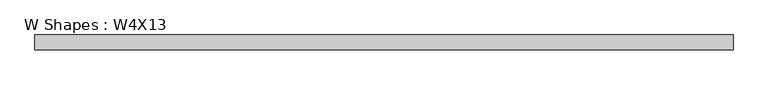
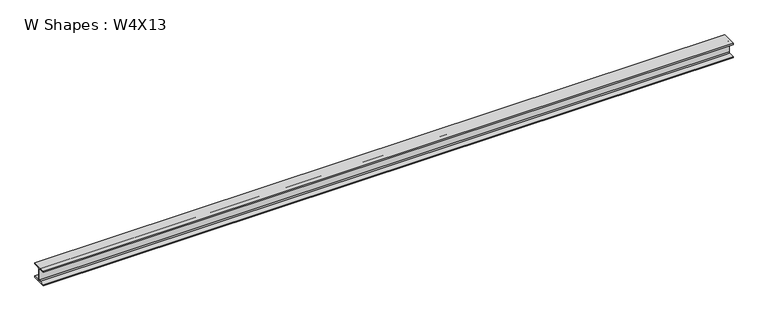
"""IFC4 building model written with IfcOpenShell, lengths in millimetres: beam geometry, W Shapes : W4X13."""

import ifcopenshell
import ifcopenshell.guid

model = None  # the IFC model being written
_history = None  # IfcOwnerHistory: only IFC2X3 demands one
_inside = {}  # id of a spatial element -> (the spatial element, [elements in it])
_under = {}  # id of a project, library or spatial element -> (it, [spatial elements below it])
_declared = {}  # id of a project -> (the project, [libraries it declares])
_typed = {}  # id of a type object -> (the type object, [elements of that type])
_made_of = {}  # id of a material, layer set ... -> (it, [elements and type objects made of it])


def new_model(schema):
    """Start an empty IFC model of exactly this schema.

    Asked for "IFC4X3", IfcOpenShell would pick the latest addendum, in which some entities
    have other attributes; the version numbers below select the first issue.
    IFC2X3 requires an IfcOwnerHistory on every rooted entity: one is made here for all.
    """
    global model, _history
    if schema == "IFC4X3":
        model = ifcopenshell.file(schema_version=(4, 3, 0, 0))
    else:
        model = ifcopenshell.file(schema=schema)
    _inside.clear()
    _under.clear()
    _declared.clear()
    _typed.clear()
    _made_of.clear()
    _history = None
    if model.schema == "IFC2X3":
        org = make("IfcOrganization", Name="unknown")
        user = make(
            "IfcPersonAndOrganization",
            ThePerson=make("IfcPerson", FamilyName="unknown"),
            TheOrganization=org,
        )
        app = make(
            "IfcApplication",
            ApplicationDeveloper=org,
            Version="unknown",
            ApplicationFullName="unknown",
            ApplicationIdentifier="unknown",
        )
        _history = make(
            "IfcOwnerHistory",
            OwningUser=user,
            OwningApplication=app,
            ChangeAction="ADDED",
            CreationDate=0,
        )
    return model


def make(cls, **values):
    """One entity of the class cls with the attributes given. An attribute that is None is left unset."""
    return model.create_entity(
        cls, **{name: value for name, value in values.items() if value is not None}
    )


def rooted(cls, **values):
    """An entity with a GlobalId (a new one), such as an element, a storey or a relation."""
    return make(cls, GlobalId=ifcopenshell.guid.new(), OwnerHistory=_history, **values)


def si_unit(unit_type, name, prefix=None):
    """IfcSIUnit, for example si_unit("LENGTHUNIT", "METRE", prefix="MILLI")."""
    return make("IfcSIUnit", UnitType=unit_type, Prefix=prefix, Name=name)


def assignment(units):
    """IfcUnitAssignment: the units of a project."""
    return None if units is None else make("IfcUnitAssignment", Units=units)


def point(xyz):
    """IfcCartesianPoint."""
    return None if xyz is None else make("IfcCartesianPoint", Coordinates=xyz)


def direction(xyz):
    """IfcDirection."""
    return None if xyz is None else make("IfcDirection", DirectionRatios=xyz)


def frame(location, z_axis=None, x_axis=None):
    """IfcAxis2Placement3D, a coordinate frame: its origin and axes. An axis left out is left unset."""
    return make(
        "IfcAxis2Placement3D",
        Location=point(location),
        Axis=direction(z_axis),
        RefDirection=direction(x_axis),
    )


def frame_2d(location, x_axis=None):
    """IfcAxis2Placement2D, a coordinate frame in the plane: its origin and x axis."""
    return make(
        "IfcAxis2Placement2D", Location=point(location), RefDirection=direction(x_axis)
    )


def origin():
    """The frame at (0, 0, 0) with its axes left unset."""
    return frame((0.0, 0.0, 0.0))


def place(relative_to, where):
    """IfcLocalPlacement: puts the frame where relative to a parent placement (None: the world)."""
    return make(
        "IfcLocalPlacement", PlacementRelTo=relative_to, RelativePlacement=where
    )


def context(
    kind, dimensions, precision=None, world=None, true_north=None, identifier=None
):
    """IfcGeometricRepresentationContext, for example the 3D "Model" context."""
    return make(
        "IfcGeometricRepresentationContext",
        ContextIdentifier=identifier,
        ContextType=kind,
        CoordinateSpaceDimension=dimensions,
        Precision=precision,
        WorldCoordinateSystem=world,
        TrueNorth=true_north,
    )


def project(units=None, contexts=None):
    """IfcProject with its units and contexts."""
    return rooted(
        "IfcProject",
        Name="project",
        RepresentationContexts=contexts,
        UnitsInContext=assignment(units),
    )


def spatial(cls, under=None, at=None, **own):
    """A site, building, storey or space (cls), placed at a placement, below another one or the project."""
    s = rooted(cls, ObjectPlacement=at, **own)
    if under is not None:
        _under.setdefault(under.id(), (under, []))[1].append(s)
    return s


def polyline(points):
    """IfcPolyline through the points."""
    return make("IfcPolyline", Points=[point(p) for p in points])


def circle_curve(where, radius):
    """IfcCircle in the frame where."""
    return make("IfcCircle", Position=where, Radius=radius)


def trimmed(basis, trim1, trim2, sense, master):
    """IfcTrimmedCurve: the piece of a basis curve between two trims."""
    return make(
        "IfcTrimmedCurve",
        BasisCurve=basis,
        Trim1=trim1,
        Trim2=trim2,
        SenseAgreement=sense,
        MasterRepresentation=master,
    )


def segment(curve, same_sense, transition):
    """IfcCompositeCurveSegment."""
    return make(
        "IfcCompositeCurveSegment",
        Transition=transition,
        SameSense=same_sense,
        ParentCurve=curve,
    )


def composite_curve(segments, self_intersect=None):
    """IfcCompositeCurve: segments joined end to end."""
    return make("IfcCompositeCurve", Segments=segments, SelfIntersect=self_intersect)


def outline(outer, holes=None, kind="AREA"):
    """IfcArbitraryClosedProfileDef: a profile drawn as a closed curve; with holes, ...WithVoids."""
    if holes is None:
        return make("IfcArbitraryClosedProfileDef", ProfileType=kind, OuterCurve=outer)
    return make(
        "IfcArbitraryProfileDefWithVoids",
        ProfileType=kind,
        OuterCurve=outer,
        InnerCurves=holes,
    )


def extrude(swept, where, along, depth):
    """IfcExtrudedAreaSolid: the profile swept, set in the frame where, extruded along a direction by depth."""
    return make(
        "IfcExtrudedAreaSolid",
        SweptArea=swept,
        Position=where,
        ExtrudedDirection=direction(along),
        Depth=depth,
    )


def shape(context_of_items, identifier, shape_type, items):
    """IfcShapeRepresentation: the items that make up one representation, for example the "Body"."""
    return make(
        "IfcShapeRepresentation",
        ContextOfItems=context_of_items,
        RepresentationIdentifier=identifier,
        RepresentationType=shape_type,
        Items=items,
    )


def source(mapping_origin, context_of_items, identifier, shape_type, items):
    """IfcRepresentationMap: a shape defined once, which mapped items show again and again."""
    return make(
        "IfcRepresentationMap",
        MappingOrigin=mapping_origin,
        MappedRepresentation=shape(context_of_items, identifier, shape_type, items),
    )


def transform(
    local_origin,
    x_axis=None,
    y_axis=None,
    z_axis=None,
    scale=None,
    scale2=None,
    scale3=None,
    uniform=True,
):
    """IfcCartesianTransformationOperator3D, or its non-uniform kind. x_axis, y_axis, z_axis: its Axis1, 2, 3."""
    if uniform:
        return make(
            "IfcCartesianTransformationOperator3D",
            Axis1=direction(x_axis),
            Axis2=direction(y_axis),
            LocalOrigin=point(local_origin),
            Scale=scale,
            Axis3=direction(z_axis),
        )
    return make(
        "IfcCartesianTransformationOperator3DnonUniform",
        Axis1=direction(x_axis),
        Axis2=direction(y_axis),
        LocalOrigin=point(local_origin),
        Scale=scale,
        Axis3=direction(z_axis),
        Scale2=scale2,
        Scale3=scale3,
    )


def mapped(mapping_source, mapping_target):
    """IfcMappedItem: shows the shape of a source again, moved by a transform."""
    return make(
        "IfcMappedItem", MappingSource=mapping_source, MappingTarget=mapping_target
    )


def made_of(thing, what):
    """Note that an element or type object is made of a material, layer set ...; save() writes the relation."""
    if what is not None:
        _made_of.setdefault(what.id(), (what, []))[1].append(thing)
    return thing


def element(
    cls,
    number,
    at=None,
    inside=None,
    cuts=None,
    type_object=None,
    material=None,
    context=None,
    identifier="Body",
    shape_type=None,
    held_by="IfcProductDefinitionShape",
    body=None,
    shapes=None,
    **own,
):
    """One element of the class cls, such as IfcWall. Its Tag is "e" and its number.

    at: its placement. inside: the storey or other place that contains it. cuts: it is an
    opening in that element (IfcRelVoidsElement). A single representation is given by context,
    identifier, shape_type and body (its items); several are given by shapes. held_by: the class
    of the entity that holds the representations. save() writes the other relations.
    """
    e = rooted(cls, Tag="e%d" % number, ObjectPlacement=at, **own)
    if body is not None:
        shapes = [shape(context, identifier, shape_type, body)]
    if shapes is not None:
        e.Representation = make(held_by, Representations=shapes)
    if inside is not None:
        _inside.setdefault(inside.id(), (inside, []))[1].append(e)
    if cuts is not None:
        rooted(
            "IfcRelVoidsElement", RelatingBuildingElement=cuts, RelatedOpeningElement=e
        )
    if type_object is not None:
        _typed.setdefault(type_object.id(), (type_object, []))[1].append(e)
    return made_of(e, material)


def aggregate(whole, parts):
    """IfcRelAggregates: a whole, such as a stair, and the parts it consists of."""
    return rooted("IfcRelAggregates", RelatingObject=whole, RelatedObjects=parts)


def save(model, path):
    """Write the relations noted so far, then the file.

    IfcRelAggregates (storeys below a building ...), IfcRelContainedInSpatialStructure (elements
    in a storey), IfcRelDefinesByType, IfcRelAssociatesMaterial and IfcRelDeclares: one each for
    every whole, place, type object, material and project.
    """
    for whole, parts in _under.values():
        aggregate(whole, parts)
    for where, things in _inside.values():
        rooted(
            "IfcRelContainedInSpatialStructure",
            RelatedElements=things,
            RelatingStructure=where,
        )
    for kind, things in _typed.values():
        rooted("IfcRelDefinesByType", RelatedObjects=things, RelatingType=kind)
    for what, things in _made_of.values():
        rooted("IfcRelAssociatesMaterial", RelatedObjects=things, RelatingMaterial=what)
    for by, libraries in _declared.values():
        rooted("IfcRelDeclares", RelatingContext=by, RelatedDefinitions=libraries)
    model.write(path)


def w_shapes_w4x13_fa7221a6(model_context):
    return source(origin(), model_context, "Body", "SweptSolid", [
        extrude(outline(composite_curve([segment(polyline([(51.562, -44.069), (51.562, -52.832), (-51.562, -52.832), (-51.562, -44.069), (-9.906, -44.069)]), True, "CONTINUOUS"), segment(trimmed(circle_curve(frame_2d((-9.906, -37.719)), 6.35), [point((-9.906, -44.069))], [point((-3.556, -37.719))], True, "CARTESIAN"), True, "CONTINUOUS"), segment(polyline([(-3.556, -37.719), (-3.556, 37.719)]), True, "CONTINUOUS"), segment(trimmed(circle_curve(frame_2d((-9.906, 37.719)), 6.35), [point((-3.556, 37.719))], [point((-9.906, 44.069))], True, "CARTESIAN"), True, "CONTINUOUS"), segment(polyline([(-9.906, 44.069), (-51.562, 44.069), (-51.562, 52.832), (51.562, 52.832), (51.562, 44.069), (9.906, 44.069)]), True, "CONTINUOUS"), segment(trimmed(circle_curve(frame_2d((9.906, 37.719)), 6.35), [point((9.906, 44.069))], [point((3.556, 37.719))], True, "CARTESIAN"), True, "CONTINUOUS"), segment(polyline([(3.556, 37.719), (3.556, -37.719)]), True, "CONTINUOUS"), segment(trimmed(circle_curve(frame_2d((9.906, -37.719)), 6.35), [point((3.556, -37.719))], [point((9.906, -44.069))], True, "CARTESIAN"), True, "CONTINUOUS"), segment(polyline([(9.906, -44.069), (51.562, -44.069)]), True, "CONTINUOUS")], self_intersect=False)), frame((-2390.907, 0.0, 0.0), z_axis=(1.0, 0.0, 0.0), x_axis=(0.0, 1.0, 0.0)), (0.0, 0.0, 1.0), 4781.814),
    ])


if __name__ == "__main__":
    model = new_model("IFC4")
    model_context = context("Model", 3, world=origin())
    ifc_project = project(units=[si_unit("LENGTHUNIT", "METRE", prefix="MILLI")], contexts=[model_context])
    site = spatial("IfcSite", under=ifc_project)
    building = spatial("IfcBuilding", under=site)
    placement = place(None, origin())
    w_shapes_w4x13_shape = w_shapes_w4x13_fa7221a6(model_context)
    element("IfcBeam", 1, ObjectType="W Shapes : W4X13", at=placement, inside=building, context=model_context, shape_type="MappedRepresentation", body=[
        mapped(w_shapes_w4x13_shape, transform((0.0, 0.0, 0.0), x_axis=(1.0, 0.0, 0.0), y_axis=(0.0, 1.0, 0.0), z_axis=(0.0, 0.0, 1.0))),
    ])
    save(model, "model.ifc")
